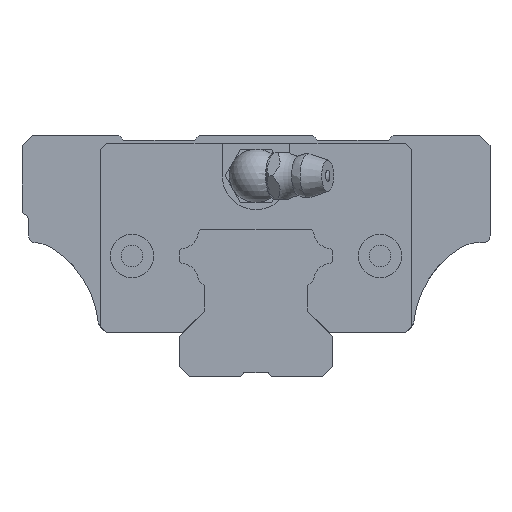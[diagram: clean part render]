
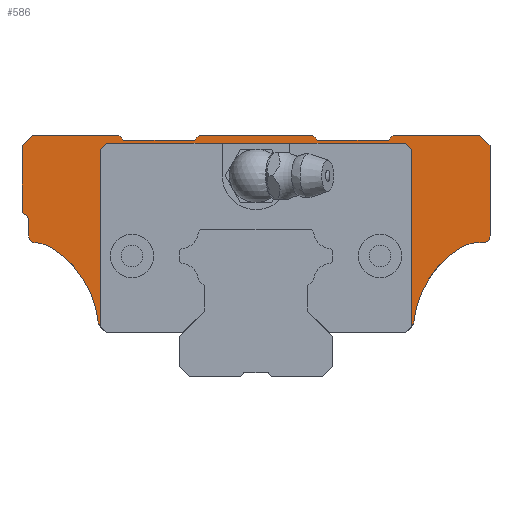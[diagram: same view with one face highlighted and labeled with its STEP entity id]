
A CAD part, front view. The second image highlights one B-rep face of the part: STEP entity #586.
In plain terms, the highlighted planar face has unit normal (0, -1, 0).
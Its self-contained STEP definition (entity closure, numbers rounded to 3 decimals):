
#372=CIRCLE('',#4509,2.);
#373=CIRCLE('',#4510,15.);
#374=CIRCLE('',#4511,5.);
#375=CIRCLE('',#4512,1.);
#376=CIRCLE('',#4513,1.);
#377=CIRCLE('',#4514,1.);
#378=CIRCLE('',#4515,1.);
#379=CIRCLE('',#4516,5.);
#380=CIRCLE('',#4517,15.);
#381=CIRCLE('',#4518,2.);
#586=ADVANCED_FACE('',(#959),#783,.T.);
#783=PLANE('',#4519);
#959=FACE_OUTER_BOUND('',#1211,.T.);
#1211=EDGE_LOOP('',(#1972,#1973,#1974,#1975,#1976,#1977,#1978,#1979,#1980,
#1981,#1982,#1983,#1984,#1985,#1986,#1987,#1988,#1989,#1990,#1991,#1992,
#1993,#1994,#1995,#1996,#1997,#1998,#1999,#2000,#2001,#2002));
#1972=ORIENTED_EDGE('',*,*,#3243,.F.);
#1973=ORIENTED_EDGE('',*,*,#3234,.T.);
#1974=ORIENTED_EDGE('',*,*,#3220,.T.);
#1975=ORIENTED_EDGE('',*,*,#3236,.T.);
#1976=ORIENTED_EDGE('',*,*,#3238,.T.);
#1977=ORIENTED_EDGE('',*,*,#3256,.F.);
#1978=ORIENTED_EDGE('',*,*,#3257,.F.);
#1979=ORIENTED_EDGE('',*,*,#3258,.F.);
#1980=ORIENTED_EDGE('',*,*,#3259,.F.);
#1981=ORIENTED_EDGE('',*,*,#3260,.F.);
#1982=ORIENTED_EDGE('',*,*,#3261,.F.);
#1983=ORIENTED_EDGE('',*,*,#3262,.F.);
#1984=ORIENTED_EDGE('',*,*,#3263,.F.);
#1985=ORIENTED_EDGE('',*,*,#3264,.F.);
#1986=ORIENTED_EDGE('',*,*,#3265,.F.);
#1987=ORIENTED_EDGE('',*,*,#3266,.F.);
#1988=ORIENTED_EDGE('',*,*,#3267,.F.);
#1989=ORIENTED_EDGE('',*,*,#3268,.F.);
#1990=ORIENTED_EDGE('',*,*,#3269,.F.);
#1991=ORIENTED_EDGE('',*,*,#3270,.F.);
#1992=ORIENTED_EDGE('',*,*,#3271,.F.);
#1993=ORIENTED_EDGE('',*,*,#3272,.F.);
#1994=ORIENTED_EDGE('',*,*,#3273,.F.);
#1995=ORIENTED_EDGE('',*,*,#3274,.F.);
#1996=ORIENTED_EDGE('',*,*,#3275,.F.);
#1997=ORIENTED_EDGE('',*,*,#3276,.F.);
#1998=ORIENTED_EDGE('',*,*,#3277,.F.);
#1999=ORIENTED_EDGE('',*,*,#3278,.F.);
#2000=ORIENTED_EDGE('',*,*,#3279,.F.);
#2001=ORIENTED_EDGE('',*,*,#3280,.F.);
#2002=ORIENTED_EDGE('',*,*,#3281,.F.);
#2666=VERTEX_POINT('',#6523);
#2668=VERTEX_POINT('',#6529);
#2727=VERTEX_POINT('',#6691);
#2728=VERTEX_POINT('',#6693);
#2738=VERTEX_POINT('',#6719);
#2739=VERTEX_POINT('',#6723);
#2748=VERTEX_POINT('',#6770);
#2749=VERTEX_POINT('',#6772);
#2750=VERTEX_POINT('',#6774);
#2751=VERTEX_POINT('',#6776);
#2752=VERTEX_POINT('',#6778);
#2753=VERTEX_POINT('',#6780);
#2754=VERTEX_POINT('',#6782);
#2755=VERTEX_POINT('',#6784);
#2756=VERTEX_POINT('',#6786);
#2757=VERTEX_POINT('',#6788);
#2758=VERTEX_POINT('',#6790);
#2759=VERTEX_POINT('',#6792);
#2760=VERTEX_POINT('',#6794);
#2761=VERTEX_POINT('',#6796);
#2762=VERTEX_POINT('',#6798);
#2763=VERTEX_POINT('',#6800);
#2764=VERTEX_POINT('',#6802);
#2765=VERTEX_POINT('',#6804);
#2766=VERTEX_POINT('',#6806);
#2767=VERTEX_POINT('',#6808);
#2768=VERTEX_POINT('',#6810);
#2769=VERTEX_POINT('',#6812);
#2770=VERTEX_POINT('',#6814);
#2771=VERTEX_POINT('',#6816);
#2772=VERTEX_POINT('',#6818);
#3220=EDGE_CURVE('',#2728,#2727,#3709,.T.);
#3234=EDGE_CURVE('',#2738,#2728,#3720,.T.);
#3236=EDGE_CURVE('',#2727,#2739,#3722,.T.);
#3238=EDGE_CURVE('',#2739,#2668,#3724,.T.);
#3243=EDGE_CURVE('',#2738,#2666,#3729,.T.);
#3256=EDGE_CURVE('',#2748,#2668,#372,.T.);
#3257=EDGE_CURVE('',#2749,#2748,#373,.T.);
#3258=EDGE_CURVE('',#2750,#2749,#374,.T.);
#3259=EDGE_CURVE('',#2751,#2750,#3734,.T.);
#3260=EDGE_CURVE('',#2752,#2751,#375,.T.);
#3261=EDGE_CURVE('',#2753,#2752,#3735,.T.);
#3262=EDGE_CURVE('',#2754,#2753,#3736,.T.);
#3263=EDGE_CURVE('',#2755,#2754,#3737,.T.);
#3264=EDGE_CURVE('',#2756,#2755,#3738,.T.);
#3265=EDGE_CURVE('',#2757,#2756,#3739,.T.);
#3266=EDGE_CURVE('',#2758,#2757,#3740,.T.);
#3267=EDGE_CURVE('',#2759,#2758,#3741,.T.);
#3268=EDGE_CURVE('',#2760,#2759,#3742,.T.);
#3269=EDGE_CURVE('',#2761,#2760,#3743,.T.);
#3270=EDGE_CURVE('',#2762,#2761,#3744,.T.);
#3271=EDGE_CURVE('',#2763,#2762,#3745,.T.);
#3272=EDGE_CURVE('',#2764,#2763,#3746,.T.);
#3273=EDGE_CURVE('',#2765,#2764,#3747,.T.);
#3274=EDGE_CURVE('',#2766,#2765,#376,.T.);
#3275=EDGE_CURVE('',#2767,#2766,#3748,.T.);
#3276=EDGE_CURVE('',#2768,#2767,#377,.T.);
#3277=EDGE_CURVE('',#2769,#2768,#3749,.T.);
#3278=EDGE_CURVE('',#2770,#2769,#378,.T.);
#3279=EDGE_CURVE('',#2771,#2770,#379,.T.);
#3280=EDGE_CURVE('',#2772,#2771,#380,.T.);
#3281=EDGE_CURVE('',#2666,#2772,#381,.T.);
#3709=LINE('',#6692,#4096);
#3720=LINE('',#6718,#4107);
#3722=LINE('',#6722,#4109);
#3724=LINE('',#6726,#4111);
#3729=LINE('',#6734,#4116);
#3734=LINE('',#6775,#4121);
#3735=LINE('',#6779,#4122);
#3736=LINE('',#6781,#4123);
#3737=LINE('',#6783,#4124);
#3738=LINE('',#6785,#4125);
#3739=LINE('',#6787,#4126);
#3740=LINE('',#6789,#4127);
#3741=LINE('',#6791,#4128);
#3742=LINE('',#6793,#4129);
#3743=LINE('',#6795,#4130);
#3744=LINE('',#6797,#4131);
#3745=LINE('',#6799,#4132);
#3746=LINE('',#6801,#4133);
#3747=LINE('',#6803,#4134);
#3748=LINE('',#6807,#4135);
#3749=LINE('',#6811,#4136);
#4096=VECTOR('',#5286,1.);
#4107=VECTOR('',#5307,1.);
#4109=VECTOR('',#5311,1.);
#4111=VECTOR('',#5315,1.);
#4116=VECTOR('',#5326,1.);
#4121=VECTOR('',#5381,1.);
#4122=VECTOR('',#5384,1.);
#4123=VECTOR('',#5385,1.);
#4124=VECTOR('',#5386,1.);
#4125=VECTOR('',#5387,1.);
#4126=VECTOR('',#5388,1.);
#4127=VECTOR('',#5389,1.);
#4128=VECTOR('',#5390,1.);
#4129=VECTOR('',#5391,1.);
#4130=VECTOR('',#5392,1.);
#4131=VECTOR('',#5393,1.);
#4132=VECTOR('',#5394,1.);
#4133=VECTOR('',#5395,1.);
#4134=VECTOR('',#5396,1.);
#4135=VECTOR('',#5399,1.);
#4136=VECTOR('',#5402,1.);
#4509=AXIS2_PLACEMENT_3D('',#6769,#5375,#5376);
#4510=AXIS2_PLACEMENT_3D('',#6771,#5377,#5378);
#4511=AXIS2_PLACEMENT_3D('',#6773,#5379,#5380);
#4512=AXIS2_PLACEMENT_3D('',#6777,#5382,#5383);
#4513=AXIS2_PLACEMENT_3D('',#6805,#5397,#5398);
#4514=AXIS2_PLACEMENT_3D('',#6809,#5400,#5401);
#4515=AXIS2_PLACEMENT_3D('',#6813,#5403,#5404);
#4516=AXIS2_PLACEMENT_3D('',#6815,#5405,#5406);
#4517=AXIS2_PLACEMENT_3D('',#6817,#5407,#5408);
#4518=AXIS2_PLACEMENT_3D('',#6819,#5409,#5410);
#4519=AXIS2_PLACEMENT_3D('',#6820,#5411,#5412);
#5286=DIRECTION('',(1.,0.,0.));
#5307=DIRECTION('',(0.707,0.,0.707));
#5311=DIRECTION('',(0.707,0.,-0.707));
#5315=DIRECTION('',(0.,0.,-1.));
#5326=DIRECTION('',(0.,0.,-1.));
#5375=DIRECTION('',(0.,1.,0.));
#5376=DIRECTION('',(1.,0.,0.));
#5377=DIRECTION('',(0.,-1.,0.));
#5378=DIRECTION('',(1.,0.,0.));
#5379=DIRECTION('',(0.,-1.,0.));
#5380=DIRECTION('',(1.,0.,0.));
#5381=DIRECTION('',(-1.,0.,0.));
#5382=DIRECTION('',(0.,1.,0.));
#5383=DIRECTION('',(1.,0.,0.));
#5384=DIRECTION('',(0.,0.,-1.));
#5385=DIRECTION('',(0.707,0.,-0.707));
#5386=DIRECTION('',(1.,0.,0.));
#5387=DIRECTION('',(0.707,0.,0.707));
#5388=DIRECTION('',(1.,0.,0.));
#5389=DIRECTION('',(0.707,0.,-0.707));
#5390=DIRECTION('',(1.,0.,0.));
#5391=DIRECTION('',(0.707,0.,0.707));
#5392=DIRECTION('',(1.,0.,0.));
#5393=DIRECTION('',(0.707,0.,-0.707));
#5394=DIRECTION('',(1.,0.,0.));
#5395=DIRECTION('',(0.707,0.,0.707));
#5396=DIRECTION('',(0.,0.,1.));
#5397=DIRECTION('',(0.,1.,0.));
#5398=DIRECTION('',(1.,0.,0.));
#5399=DIRECTION('',(-0.914,0.,0.407));
#5400=DIRECTION('',(0.,-1.,0.));
#5401=DIRECTION('',(1.,0.,0.));
#5402=DIRECTION('',(0.,0.,1.));
#5403=DIRECTION('',(0.,1.,0.));
#5404=DIRECTION('',(1.,0.,0.));
#5405=DIRECTION('',(0.,-1.,0.));
#5406=DIRECTION('',(1.,0.,0.));
#5407=DIRECTION('',(0.,-1.,0.));
#5408=DIRECTION('',(1.,0.,0.));
#5409=DIRECTION('',(0.,1.,0.));
#5410=DIRECTION('',(1.,0.,0.));
#5411=DIRECTION('',(0.,-1.,0.));
#5412=DIRECTION('',(0.,0.,-1.));
#6523=CARTESIAN_POINT('',(-23.3,-39.,7.418));
#6529=CARTESIAN_POINT('',(23.3,-39.,7.418));
#6691=CARTESIAN_POINT('',(22.4,-39.,34.9));
#6692=CARTESIAN_POINT('',(-22.4,-39.,34.9));
#6693=CARTESIAN_POINT('',(-22.4,-39.,34.9));
#6718=CARTESIAN_POINT('',(-23.3,-39.,34.));
#6719=CARTESIAN_POINT('',(-23.3,-39.,34.));
#6722=CARTESIAN_POINT('',(22.4,-39.,34.9));
#6723=CARTESIAN_POINT('',(23.3,-39.,34.));
#6726=CARTESIAN_POINT('',(23.3,-39.,34.));
#6734=CARTESIAN_POINT('',(-23.3,-39.,34.));
#6769=CARTESIAN_POINT('',(21.618,-39.,8.5));
#6770=CARTESIAN_POINT('',(23.604,-39.,8.265));
#6771=CARTESIAN_POINT('',(38.5,-39.,6.5));
#6772=CARTESIAN_POINT('',(30.61,-39.,19.257));
#6773=CARTESIAN_POINT('',(33.24,-39.,15.005));
#6774=CARTESIAN_POINT('',(33.021,-39.,20.));
#6775=CARTESIAN_POINT('',(34.,-39.,20.));
#6776=CARTESIAN_POINT('',(34.,-39.,20.));
#6777=CARTESIAN_POINT('',(34.,-39.,21.));
#6778=CARTESIAN_POINT('',(35.,-39.,21.));
#6779=CARTESIAN_POINT('',(35.,-39.,34.5));
#6780=CARTESIAN_POINT('',(35.,-39.,34.5));
#6781=CARTESIAN_POINT('',(33.5,-39.,36.));
#6782=CARTESIAN_POINT('',(33.5,-39.,36.));
#6783=CARTESIAN_POINT('',(20.5,-39.,36.));
#6784=CARTESIAN_POINT('',(20.5,-39.,36.));
#6785=CARTESIAN_POINT('',(19.8,-39.,35.3));
#6786=CARTESIAN_POINT('',(19.8,-39.,35.3));
#6787=CARTESIAN_POINT('',(9.2,-39.,35.3));
#6788=CARTESIAN_POINT('',(9.2,-39.,35.3));
#6789=CARTESIAN_POINT('',(8.5,-39.,36.));
#6790=CARTESIAN_POINT('',(8.5,-39.,36.));
#6791=CARTESIAN_POINT('',(-8.5,-39.,36.));
#6792=CARTESIAN_POINT('',(-8.5,-39.,36.));
#6793=CARTESIAN_POINT('',(-9.2,-39.,35.3));
#6794=CARTESIAN_POINT('',(-9.2,-39.,35.3));
#6795=CARTESIAN_POINT('',(-19.8,-39.,35.3));
#6796=CARTESIAN_POINT('',(-19.8,-39.,35.3));
#6797=CARTESIAN_POINT('',(-20.5,-39.,36.));
#6798=CARTESIAN_POINT('',(-20.5,-39.,36.));
#6799=CARTESIAN_POINT('',(-33.5,-39.,36.));
#6800=CARTESIAN_POINT('',(-33.5,-39.,36.));
#6801=CARTESIAN_POINT('',(-35.,-39.,34.5));
#6802=CARTESIAN_POINT('',(-35.,-39.,34.5));
#6803=CARTESIAN_POINT('',(-35.,-39.,25.));
#6804=CARTESIAN_POINT('',(-35.,-39.,25.));
#6805=CARTESIAN_POINT('',(-34.,-39.,25.));
#6806=CARTESIAN_POINT('',(-34.5,-39.,24.134));
#6807=CARTESIAN_POINT('',(-34.499,-39.,24.133));
#6808=CARTESIAN_POINT('',(-34.499,-39.,24.133));
#6809=CARTESIAN_POINT('',(-35.,-39.,23.268));
#6810=CARTESIAN_POINT('',(-34.,-39.,23.268));
#6811=CARTESIAN_POINT('',(-34.,-39.,21.));
#6812=CARTESIAN_POINT('',(-34.,-39.,21.));
#6813=CARTESIAN_POINT('',(-33.,-39.,21.));
#6814=CARTESIAN_POINT('',(-33.04,-39.,20.001));
#6815=CARTESIAN_POINT('',(-33.24,-39.,15.005));
#6816=CARTESIAN_POINT('',(-30.598,-39.,19.25));
#6817=CARTESIAN_POINT('',(-38.5,-39.,6.5));
#6818=CARTESIAN_POINT('',(-23.604,-39.,8.265));
#6819=CARTESIAN_POINT('',(-21.618,-39.,8.5));
#6820=CARTESIAN_POINT('',(-35.,-39.,23.268));
